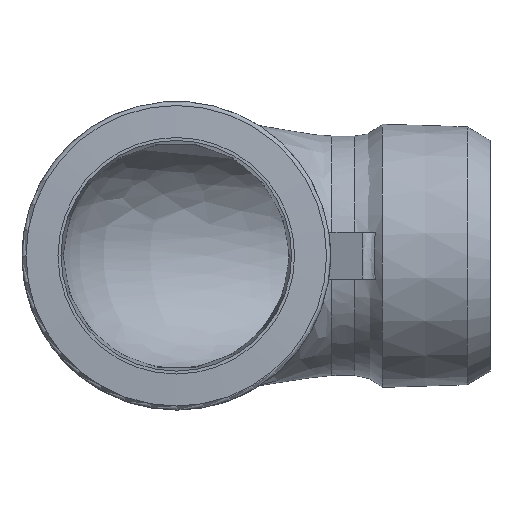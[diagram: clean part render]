
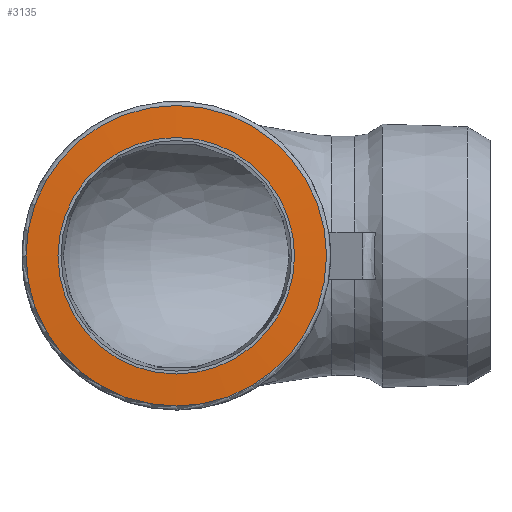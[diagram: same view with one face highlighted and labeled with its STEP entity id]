
A CAD part, front view. The second image highlights one B-rep face of the part: STEP entity #3135.
In plain terms, the highlighted conical face has half-angle 87 degrees and reference radius 32.15 mm.
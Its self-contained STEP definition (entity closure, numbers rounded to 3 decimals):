
#3101=CARTESIAN_POINT('',(27.9,0.0,0.));
#3102=VERTEX_POINT('',#3101);
#3103=CARTESIAN_POINT('',(0.0,0.0,0.0));
#3104=DIRECTION('',(0.0,1.0,0.0));
#3105=DIRECTION('',(-1.0,0.0,0.0));
#3106=AXIS2_PLACEMENT_3D('',#3103,#3104,#3105);
#3107=CIRCLE('',#3106,27.9);
#3108=EDGE_CURVE('',#3102,#3102,#3107,.T.);
#3116=CARTESIAN_POINT('',(0.0,0.223,0.0));
#3117=DIRECTION('',(0.0,1.0,0.0));
#3118=DIRECTION('',(-1.0,0.0,0.0));
#3119=AXIS2_PLACEMENT_3D('',#3116,#3117,#3118);
#3120=CONICAL_SURFACE('',#3119,32.15,87.);
#3121=ORIENTED_EDGE('',*,*,#3108,.T.);
#3122=EDGE_LOOP('',(#3121));
#3123=FACE_OUTER_BOUND('',#3122,.T.);
#3124=CARTESIAN_POINT('',(35.452,0.396,0.));
#3125=VERTEX_POINT('',#3124);
#3126=CARTESIAN_POINT('',(0.0,0.396,0.));
#3127=DIRECTION('',(0.0,1.0,0.0));
#3128=DIRECTION('',(-1.0,0.0,0.0));
#3129=AXIS2_PLACEMENT_3D('',#3126,#3127,#3128);
#3130=CIRCLE('',#3129,35.452);
#3131=EDGE_CURVE('',#3125,#3125,#3130,.T.);
#3132=ORIENTED_EDGE('',*,*,#3131,.F.);
#3133=EDGE_LOOP('',(#3132));
#3134=FACE_BOUND('',#3133,.T.);
#3135=ADVANCED_FACE('',(#3123,#3134),#3120,.T.);
